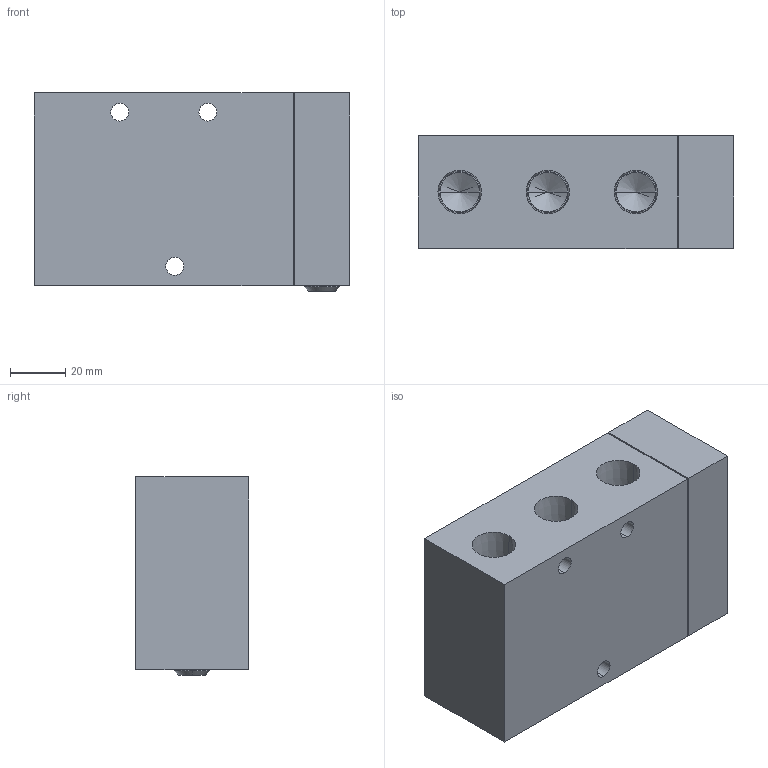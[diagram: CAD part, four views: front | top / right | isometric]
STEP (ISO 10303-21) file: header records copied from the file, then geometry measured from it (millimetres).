
FILE_DESCRIPTION (( 'STEP AP203' ), '1' );
FILE_NAME ('VS2410-03.STEP', '2016-01-13T18:40:10', ( '' ), ( '' ), 'SwSTEP 2.0', 'SolidWorks 2014', '' );
FILE_SCHEMA (( 'CONFIG_CONTROL_DESIGN' ));
Length unit declared in the file: millimetre
Products named in the file (7): VS2410-03; VS2410-1=03; VS2410-MARK; 止付1-4; VS2410-3; VS2410-2; M4
Assembly tree (9 placements, depth 2):
  VS2410-03
    VS2410-1=03
    VS2410-2
    VS2410-3
    VS2410-MARK
    M4  x4
    止付1-4
Bounding box: 114.5 x 41.15 x 72 mm (x, y, z)
Volume: 303966.7 mm3; surface area: 53211.3 mm2
Topology: 18 solids, 18 shells, 538 faces, 1342 edges, 857 vertices
Faces by surface type: plane 309, cone 70, cylinder 67, bspline 66, torus 16, sphere 10
Entity records: 16785 total; most frequent: CARTESIAN_POINT 5910, ORIENTED_EDGE 2136, DIRECTION 1894, EDGE_CURVE 1068, LINE 726, VECTOR 726, VERTEX_POINT 704, AXIS2_PLACEMENT_3D 584
